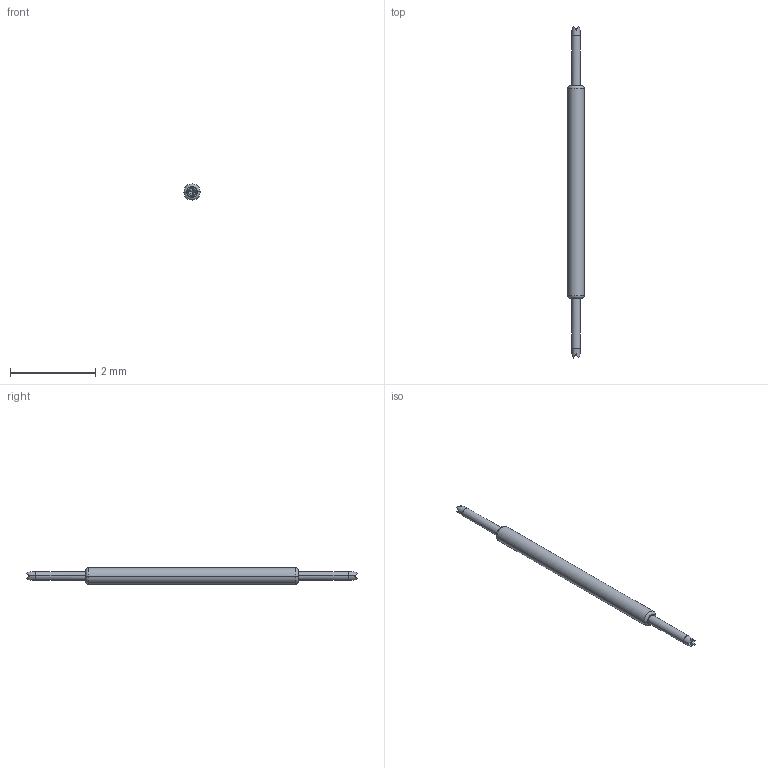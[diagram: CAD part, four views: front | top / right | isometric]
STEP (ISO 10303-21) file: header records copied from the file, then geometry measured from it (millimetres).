
FILE_DESCRIPTION((''),'2;1');
FILE_NAME('JD-SX038-115','2020-11-04T',('lenovo'),(''),'PRO/ENGINEER BY PARAMETRIC TECHNOLOGY CORPORATION, 2008380','PRO/ENGINEER BY PARAMETRIC TECHNOLOGY CORPORATION, 2008380','');
FILE_SCHEMA(('CONFIG_CONTROL_DESIGN'));
Length unit declared in the file: millimetre
Products named in the file (1): JD-SX038-115
Bounding box: 0.38 x 7.8 x 0.38 mm (x, y, z)
Volume: 0.7 mm3; surface area: 7.9 mm2
Topology: 1 solids, 1 shells, 32 faces, 62 edges, 34 vertices
Faces by surface type: plane 18, cylinder 6, cone 4, torus 4
Entity records: 900 total; most frequent: CARTESIAN_POINT 244, ORIENTED_EDGE 124, DIRECTION 122, EDGE_CURVE 62, AXIS2_PLACEMENT_3D 48, VERTEX_POINT 34, EDGE_LOOP 34, FACE_OUTER_BOUND 32
